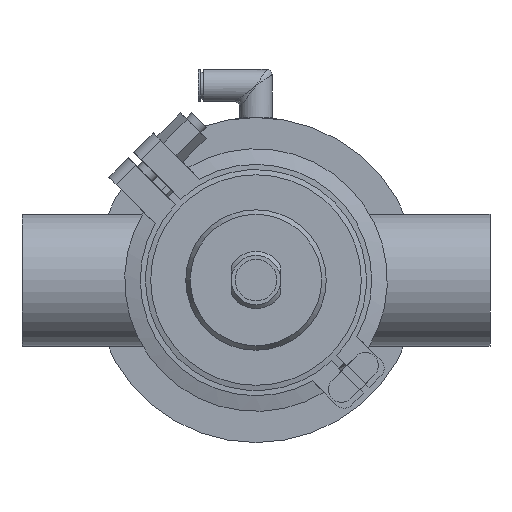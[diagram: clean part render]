
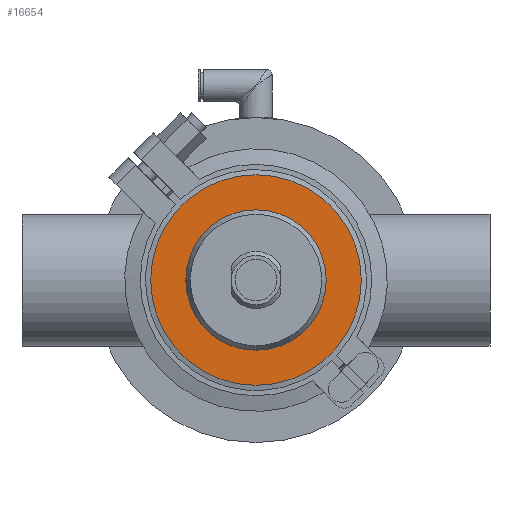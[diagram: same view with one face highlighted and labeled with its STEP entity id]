
A CAD part, front view. The second image highlights one B-rep face of the part: STEP entity #16654.
In plain terms, the highlighted planar face has unit normal (0, -1, 0).
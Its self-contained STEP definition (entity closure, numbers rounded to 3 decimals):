
#56 = DIRECTION ( 'NONE',  ( 0., 0., 1. ) ) ;
#337 = FACE_OUTER_BOUND ( 'NONE', #21059, .T. ) ;
#1696 = DIRECTION ( 'NONE',  ( 0., 1., 0. ) ) ;
#3684 = CARTESIAN_POINT ( 'NONE',  ( 0., -13., 0. ) ) ;
#3827 = DIRECTION ( 'NONE',  ( 0., 1., 0. ) ) ;
#4318 = ORIENTED_EDGE ( 'NONE', *, *, #11368, .F. ) ;
#5397 = DIRECTION ( 'NONE',  ( 0., 0., 1. ) ) ;
#5432 = CARTESIAN_POINT ( 'NONE',  ( -40.5, -13., 0. ) ) ;
#5834 = CARTESIAN_POINT ( 'NONE',  ( 0., -13., 27. ) ) ;
#8877 = PLANE ( 'NONE',  #19947 ) ;
#9158 = CARTESIAN_POINT ( 'NONE',  ( 0., -13., 0. ) ) ;
#10514 = CIRCLE ( 'NONE', #14031, 40.5 ) ;
#11368 = EDGE_CURVE ( 'NONE', #20542, #20542, #10514, .T. ) ;
#14031 = AXIS2_PLACEMENT_3D ( 'NONE', #9158, #3827, #5397 ) ;
#14390 = AXIS2_PLACEMENT_3D ( 'NONE', #3684, #1696, #56 ) ;
#15782 = CIRCLE ( 'NONE', #14390, 27. ) ;
#16654 = ADVANCED_FACE ( 'NONE', ( #20686, #337 ), #8877, .T. ) ;
#17130 = CARTESIAN_POINT ( 'NONE',  ( 0., -13., 40.5 ) ) ;
#17691 = EDGE_LOOP ( 'NONE', ( #19573 ) ) ;
#19573 = ORIENTED_EDGE ( 'NONE', *, *, #19969, .T. ) ;
#19947 = AXIS2_PLACEMENT_3D ( 'NONE', #5432, #20381, #20590 ) ;
#19969 = EDGE_CURVE ( 'NONE', #20974, #20974, #15782, .T. ) ;
#20381 = DIRECTION ( 'NONE',  ( 0., -1., 0. ) ) ;
#20542 = VERTEX_POINT ( 'NONE', #17130 ) ;
#20590 = DIRECTION ( 'NONE',  ( 0., 0., -1. ) ) ;
#20686 = FACE_BOUND ( 'NONE', #17691, .T. ) ;
#20974 = VERTEX_POINT ( 'NONE', #5834 ) ;
#21059 = EDGE_LOOP ( 'NONE', ( #4318 ) ) ;
